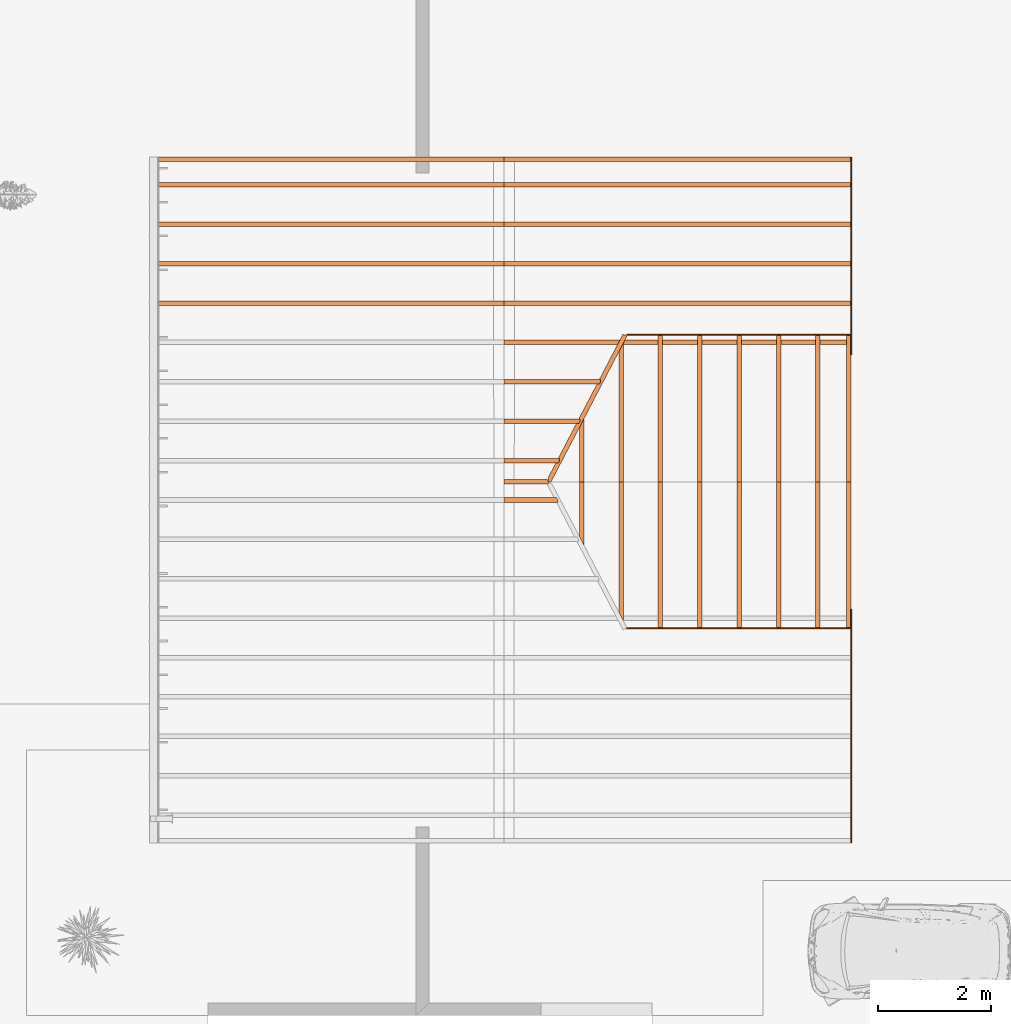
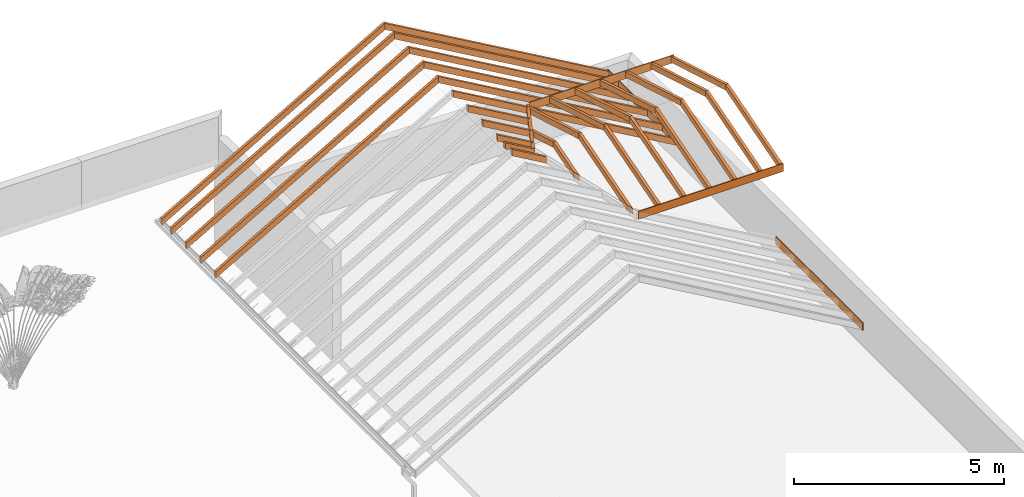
# One storey, part 4 of 7: 74 proxies.
"""IFC2X3 building model written with IfcOpenShell, lengths in metres."""

from ifc_helpers import new_model, entity, si_unit, converted_unit, derived_unit, money_unit, direction, frame, origin_with_axes, place, context, subcontext, project, spatial, faceted_brep, source, transform, mapped, type_object, element, save


model = new_model("IFC2X3")

# Units and contexts
model_context = context("Model", 3, precision=1e-05, world=origin_with_axes(), true_north=direction((0.0, 1.0)))
body_context = subcontext(model_context, "Body", "Model", "MODEL_VIEW")
ifc_project = project(units=[si_unit("LENGTHUNIT", "METRE"), si_unit("AREAUNIT", "SQUARE_METRE"), si_unit("VOLUMEUNIT", "CUBIC_METRE"), converted_unit("PLANEANGLEUNIT", "DEGREE", entity("IfcPlaneAngleMeasure", 0.0174532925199), si_unit("PLANEANGLEUNIT", "RADIAN"), dimensions=[0, 0, 0, 0, 0, 0, 0]), si_unit("SOLIDANGLEUNIT", "STERADIAN"), money_unit("CHF"), converted_unit("TIMEUNIT", "Year", entity("IfcTimeMeasure", 31556926.0), si_unit("TIMEUNIT", "SECOND"), dimensions=[0, 0, 1, 0, 0, 0, 0]), si_unit("MASSUNIT", "GRAM", prefix="KILO"), si_unit("THERMODYNAMICTEMPERATUREUNIT", "DEGREE_CELSIUS"), si_unit("LUMINOUSINTENSITYUNIT", "LUMEN"), si_unit("ENERGYUNIT", "JOULE", prefix="MEGA"), derived_unit("THERMALCONDUCTANCEUNIT", [(si_unit("POWERUNIT", "WATT"), 1), (si_unit("LENGTHUNIT", "METRE"), -1), (si_unit("THERMODYNAMICTEMPERATUREUNIT", "KELVIN"), -1)]), derived_unit("SPECIFICHEATCAPACITYUNIT", [(si_unit("ENERGYUNIT", "JOULE"), 1), (si_unit("MASSUNIT", "GRAM", prefix="KILO"), -1), (si_unit("THERMODYNAMICTEMPERATUREUNIT", "KELVIN"), -1)]), derived_unit("MASSDENSITYUNIT", [(si_unit("MASSUNIT", "GRAM", prefix="KILO"), 1), (si_unit("VOLUMEUNIT", "CUBIC_METRE"), -1)])], contexts=[model_context])

# Site, building, storey
site_placement = place(None, origin_with_axes())
site = spatial("IfcSite", under=ifc_project, at=site_placement, Name="Site", CompositionType="ELEMENT")
building_placement = place(site_placement, origin_with_axes())
building = spatial("IfcBuilding", under=site, at=building_placement, Name="Bâtiment", CompositionType="ELEMENT")
storey_placement = place(building_placement, frame((0.0, 0.0, 9.0), z_axis=(0.0, 0.0, 1.0), x_axis=(1.0, 0.0, 0.0)))
storey = spatial("IfcBuildingStorey", under=building, at=storey_placement, Name="TOITURE", CompositionType="ELEMENT", Elevation=9.0)

# Proxies
building_element_proxy_type_1 = type_object("IfcBuildingElementProxyType", Name="Chevron d'arêtier RM 20", PredefinedType="NOTDEFINED")
shared_shape_1 = source(origin_with_axes(), body_context, "Body", "Brep", [
    faceted_brep([(0.0, -0.0399999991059, 0.0), (-0.315732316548, -0.0399999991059, -0.0829397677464), (-0.315732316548, 0.0399999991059, -0.0829397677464), (0.0, 0.0399999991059, 0.0), (-0.315732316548, -0.0399999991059, 0.0824886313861), (2.55057960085, -0.0399999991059, 0.670012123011), (2.55057960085, -0.0399999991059, 0.835440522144), (-0.315732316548, 0.0399999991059, 0.0824886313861), (2.60650139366, 0.0399999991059, 0.850130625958), (2.60650139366, 0.0399999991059, 0.684702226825), (2.62734430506, 0.0, 0.690177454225), (2.62734430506, 0.0, 0.855605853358)], [[[0, 1, 2, 3]], [[4, 1, 0, 5, 6]], [[1, 4, 7, 2]], [[2, 7, 8, 9, 3]], [[3, 9, 10, 5, 0]], [[6, 5, 10, 11]], [[7, 4, 6, 11, 8]], [[9, 8, 11, 10]]]),
])
for number, where, z_axis, x_axis, name in (
    (1, (92.6776186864, 15.6453410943, -4.08429881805), (0.0, 0.0, 1.0), (-0.462101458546, -0.886827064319, 0.0), "MOB-1179"),
    (2, (92.6776186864, 15.6453410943, -4.08429881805), (0.0, 0.0, 1.0), (-0.462101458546, -0.886827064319, 0.0), "MOB-1179"),
):
    element("IfcBuildingElementProxy", number, at=place(storey_placement, frame(where, z_axis=z_axis, x_axis=x_axis)), inside=storey, type_object=building_element_proxy_type_1, Name=name, context=body_context, shape_type="MappedRepresentation", body=[
        mapped(shared_shape_1, transform((0.0, 0.0, 0.0))),
    ])
building_element_proxy_type_2 = type_object("IfcBuildingElementProxyType", Name="Chevron RM 20", PredefinedType="NOTDEFINED")
shared_shape_2 = source(origin_with_axes(), body_context, "Body", "Brep", [
    faceted_brep([(-0.279999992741, -0.04, 0.0230940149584), (5.88999992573, -0.04, 3.58534512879), (5.88999992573, 0.04, 3.58534512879), (-0.279999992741, 0.04, 0.0230940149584), (-0.279999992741, -0.04, -0.161658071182), (5.88999992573, -0.04, 3.40059304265), (5.88999992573, 0.04, 3.40059304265), (-0.279999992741, 0.04, -0.161658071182)], [[[0, 1, 2, 3]], [[4, 5, 1, 0]], [[2, 1, 5, 6]], [[3, 2, 6, 7]], [[3, 7, 4, 0]], [[7, 6, 5, 4]]]),
])
for number, where, z_axis, x_axis, name in (
    (3, (96.5635189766, 17.1953410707, -6.34843913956), (0.0, 0.0, 1.0), (-1.0, 0.0, 0.0), "MOB-1221"),
    (4, (96.5635189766, 18.5953410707, -6.34843913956), (0.0, 0.0, 1.0), (-1.0, 0.0, 0.0), "MOB-1223"),
    (5, (96.5635189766, 16.4953410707, -6.34843913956), (0.0, 0.0, 1.0), (-1.0, 0.0, 0.0), "MOB-1220"),
    (6, (96.5635189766, 17.8953410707, -6.34843913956), (0.0, 0.0, 1.0), (-1.0, 0.0, 0.0), "MOB-1222"),
    (7, (96.5635189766, 17.1953410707, -6.34843913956), (0.0, 0.0, 1.0), (-1.0, 0.0, 0.0), "MOB-1221"),
    (8, (96.5635189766, 18.5953410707, -6.34843913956), (0.0, 0.0, 1.0), (-1.0, 0.0, 0.0), "MOB-1223"),
    (9, (96.5635189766, 16.4953410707, -6.34843913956), (0.0, 0.0, 1.0), (-1.0, 0.0, 0.0), "MOB-1220"),
    (10, (96.5635189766, 17.8953410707, -6.34843913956), (0.0, 0.0, 1.0), (-1.0, 0.0, 0.0), "MOB-1222"),
):
    element("IfcBuildingElementProxy", number, at=place(storey_placement, frame(where, z_axis=z_axis, x_axis=x_axis)), inside=storey, type_object=building_element_proxy_type_2, Name=name, context=body_context, shape_type="MappedRepresentation", body=[
        mapped(shared_shape_2, transform((0.0, 0.0, 0.0))),
    ])
building_element_proxy_type_3 = type_object("IfcBuildingElementProxyType", Name="Panne 20", PredefinedType="NOTDEFINED")
shared_shape_3 = source(origin_with_axes(), body_context, "Body", "Brep", [
    faceted_brep([(0.0, -0.01, 0.23), (-3.51000007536, -0.01, 0.23), (-3.51000007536, -0.01, 0.0), (0.0, -0.01, 0.0), (0.0, 0.01, 0.23), (-3.51000007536, 0.01, 0.23), (-3.51000007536, 0.01, 0.0), (0.0, 0.01, 0.0)], [[[0, 1, 2, 3]], [[4, 5, 1, 0]], [[1, 5, 6, 2]], [[3, 2, 6, 7]], [[0, 3, 7, 4]], [[7, 6, 5, 4]]]),
])
for number, where, z_axis, x_axis, name in (
    (11, (96.8435189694, 15.5803410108, -6.5253451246), (0.0, 0.0, 1.0), (0.0, -1.0, 0.0), "MOB-1154"),
    (12, (96.8435189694, 15.5803410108, -6.5253451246), (0.0, 0.0, 1.0), (0.0, -1.0, 0.0), "MOB-1154"),
):
    element("IfcBuildingElementProxy", number, at=place(storey_placement, frame(where, z_axis=z_axis, x_axis=x_axis)), inside=storey, type_object=building_element_proxy_type_3, Name=name, context=body_context, shape_type="MappedRepresentation", body=[
        mapped(shared_shape_3, transform((0.0, 0.0, 0.0))),
    ])
shared_shape_4 = source(origin_with_axes(), body_context, "Body", "Brep", [
    faceted_brep([(-0.250452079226, -0.04, 0.0401535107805), (5.88999992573, -0.04, 3.58534512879), (5.88999992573, 0.04, 3.58534512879), (-0.250452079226, 0.04, 0.0401535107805), (-0.250452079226, -0.04, -0.14459857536), (5.88999992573, -0.04, 3.40059304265), (5.88999992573, 0.04, 3.40059304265), (-0.250452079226, 0.04, -0.14459857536)], [[[0, 1, 2, 3]], [[4, 5, 1, 0]], [[2, 1, 5, 6]], [[3, 2, 6, 7]], [[3, 7, 4, 0]], [[7, 6, 5, 4]]]),
])
for number, where, z_axis, x_axis, name in (
    (13, (84.7835191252, 18.5953410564, -6.34843913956), (0.0, 0.0, 1.0), (1.0, 0.0, 0.0), "MOB-1185"),
    (14, (84.7835191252, 18.5953410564, -6.34843913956), (0.0, 0.0, 1.0), (1.0, 0.0, 0.0), "MOB-1185"),
):
    element("IfcBuildingElementProxy", number, at=place(storey_placement, frame(where, z_axis=z_axis, x_axis=x_axis)), inside=storey, type_object=building_element_proxy_type_2, Name=name, context=body_context, shape_type="MappedRepresentation", body=[
        mapped(shared_shape_4, transform((0.0, 0.0, 0.0))),
    ])
shared_shape_5 = source(origin_with_axes(), body_context, "Body", "Brep", [
    faceted_brep([(-0.248639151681, -0.04, 0.0412002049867), (5.88999992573, -0.04, 3.58534512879), (5.88999992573, 0.04, 3.58534512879), (-0.248639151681, 0.04, 0.0412002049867), (-0.248639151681, -0.04, -0.143551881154), (5.88999992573, -0.04, 3.40059304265), (5.88999992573, 0.04, 3.40059304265), (-0.248639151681, 0.04, -0.143551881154)], [[[0, 1, 2, 3]], [[4, 5, 1, 0]], [[2, 1, 5, 6]], [[3, 2, 6, 7]], [[3, 7, 4, 0]], [[7, 6, 5, 4]]]),
])
for number, where, z_axis, x_axis, name in (
    (15, (84.7835191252, 17.1953410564, -6.34843913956), (0.0, 0.0, 1.0), (1.0, 0.0, 0.0), "MOB-1187"),
    (16, (84.7835191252, 17.1953410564, -6.34843913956), (0.0, 0.0, 1.0), (1.0, 0.0, 0.0), "MOB-1187"),
):
    element("IfcBuildingElementProxy", number, at=place(storey_placement, frame(where, z_axis=z_axis, x_axis=x_axis)), inside=storey, type_object=building_element_proxy_type_2, Name=name, context=body_context, shape_type="MappedRepresentation", body=[
        mapped(shared_shape_5, transform((0.0, 0.0, 0.0))),
    ])
building_element_proxy_type_4 = type_object("IfcBuildingElementProxyType", Name="Empannon RM 20", PredefinedType="NOTDEFINED")
shared_shape_6 = source(origin_with_axes(), body_context, "Body", "Brep", [
    faceted_brep([(0.0, 0.04, 0.0), (0.0, -0.04, 0.0), (0.0, -0.04, 0.184752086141), (0.0, 0.04, 0.184752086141), (0.769157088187, 0.04, -0.444073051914), (0.790000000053, 0.0, -0.45610671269), (0.790000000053, -0.04, -0.45610671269), (0.790000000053, -0.04, -0.27135462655), (0.790000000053, 0.0, -0.27135462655), (0.769157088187, 0.04, -0.259320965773)], [[[0, 1, 2, 3]], [[4, 5, 6, 1, 0]], [[1, 6, 7, 2]], [[3, 2, 7, 8, 9]], [[0, 3, 9, 4]], [[9, 8, 5, 4]], [[5, 8, 7, 6]]]),
])
for number, where, z_axis, x_axis, name in (
    (17, (90.6735190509, 13.3153410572, -2.94784609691), (0.0, 0.0, 1.0), (1.0, 0.0, 0.0), "MOB-1214"),
    (18, (90.6735190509, 13.3153410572, -2.94784609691), (0.0, 0.0, 1.0), (1.0, 0.0, 0.0), "MOB-1214"),
):
    element("IfcBuildingElementProxy", number, at=place(storey_placement, frame(where, z_axis=z_axis, x_axis=x_axis)), inside=storey, type_object=building_element_proxy_type_4, Name=name, context=body_context, shape_type="MappedRepresentation", body=[
        mapped(shared_shape_6, transform((0.0, 0.0, 0.0))),
    ])
shared_shape_7 = source(origin_with_axes(), body_context, "Body", "Brep", [
    faceted_brep([(-0.279999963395, -0.04, 0.0839320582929), (2.33000003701, -0.04, 0.857049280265), (2.33000003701, 0.04, 0.857049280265), (-0.279999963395, 0.04, 0.0839320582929), (-0.279999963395, -0.04, -0.0829397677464), (2.33000003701, -0.04, 0.690177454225), (2.33000003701, 0.04, 0.690177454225), (-0.279999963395, 0.04, -0.0829397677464)], [[[0, 1, 2, 3]], [[4, 5, 1, 0]], [[2, 1, 5, 6]], [[3, 2, 6, 7]], [[3, 7, 4, 0]], [[7, 6, 5, 4]]]),
])
for number, where, z_axis, x_axis, name in (
    (19, (95.5535190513, 10.9853410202, -4.08026701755), (0.0, 0.0, 1.0), (0.0, 1.0, 0.0), "MOB-1176"),
    (20, (94.1535190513, 15.6453410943, -4.08026701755), (0.0, 0.0, 1.0), (0.0, -1.0, 0.0), "MOB-1167"),
    (21, (95.5535190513, 15.6453410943, -4.08026701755), (0.0, 0.0, 1.0), (0.0, -1.0, 0.0), "MOB-1165"),
    (22, (93.4535190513, 10.9853410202, -4.08026701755), (0.0, 0.0, 1.0), (0.0, 1.0, 0.0), "MOB-1173"),
    (23, (96.2535190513, 15.6453410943, -4.08026701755), (0.0, 0.0, 1.0), (0.0, -1.0, 0.0), "MOB-1164"),
    (24, (94.1535190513, 10.9853410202, -4.08026701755), (0.0, 0.0, 1.0), (0.0, 1.0, 0.0), "MOB-1174"),
    (25, (93.4535190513, 15.6453410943, -4.08026701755), (0.0, 0.0, 1.0), (0.0, -1.0, 0.0), "MOB-1168"),
    (26, (94.8535190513, 10.9853410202, -4.08026701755), (0.0, 0.0, 1.0), (0.0, 1.0, 0.0), "MOB-1175"),
    (27, (96.2535190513, 10.9853410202, -4.08026701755), (0.0, 0.0, 1.0), (0.0, 1.0, 0.0), "MOB-1177"),
    (28, (94.8535190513, 15.6453410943, -4.08026701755), (0.0, 0.0, 1.0), (0.0, -1.0, 0.0), "MOB-1166"),
    (29, (95.5535190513, 10.9853410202, -4.08026701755), (0.0, 0.0, 1.0), (0.0, 1.0, 0.0), "MOB-1176"),
    (30, (94.1535190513, 15.6453410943, -4.08026701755), (0.0, 0.0, 1.0), (0.0, -1.0, 0.0), "MOB-1167"),
    (31, (95.5535190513, 15.6453410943, -4.08026701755), (0.0, 0.0, 1.0), (0.0, -1.0, 0.0), "MOB-1165"),
    (32, (93.4535190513, 10.9853410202, -4.08026701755), (0.0, 0.0, 1.0), (0.0, 1.0, 0.0), "MOB-1173"),
    (33, (96.2535190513, 15.6453410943, -4.08026701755), (0.0, 0.0, 1.0), (0.0, -1.0, 0.0), "MOB-1164"),
    (34, (94.1535190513, 10.9853410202, -4.08026701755), (0.0, 0.0, 1.0), (0.0, 1.0, 0.0), "MOB-1174"),
    (35, (93.4535190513, 15.6453410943, -4.08026701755), (0.0, 0.0, 1.0), (0.0, -1.0, 0.0), "MOB-1168"),
    (36, (94.8535190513, 10.9853410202, -4.08026701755), (0.0, 0.0, 1.0), (0.0, 1.0, 0.0), "MOB-1175"),
    (37, (96.2535190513, 10.9853410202, -4.08026701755), (0.0, 0.0, 1.0), (0.0, 1.0, 0.0), "MOB-1177"),
    (38, (94.8535190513, 15.6453410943, -4.08026701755), (0.0, 0.0, 1.0), (0.0, -1.0, 0.0), "MOB-1166"),
):
    element("IfcBuildingElementProxy", number, at=place(storey_placement, frame(where, z_axis=z_axis, x_axis=x_axis)), inside=storey, type_object=building_element_proxy_type_2, Name=name, context=body_context, shape_type="MappedRepresentation", body=[
        mapped(shared_shape_7, transform((0.0, 0.0, 0.0))),
    ])
shared_shape_8 = source(origin_with_axes(), body_context, "Body", "Brep", [
    faceted_brep([(0.0, 0.04, 0.0), (0.0, -0.04, 0.0), (0.0, -0.04, 0.166871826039), (0.0, 0.04, 0.166871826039), (1.1224830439, 0.04, -0.332494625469), (0.968953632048, -0.04, -0.287017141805), (0.968953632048, -0.04, -0.120145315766), (1.1224830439, 0.04, -0.165622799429)], [[[0, 1, 2, 3]], [[4, 5, 1, 0]], [[1, 5, 6, 2]], [[3, 2, 6, 7]], [[0, 3, 7, 4]], [[7, 6, 5, 4]]]),
])
for number, where, z_axis, x_axis, name in (
    (39, (92.0535190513, 13.3153410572, -3.39008956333), (0.0, 0.0, 1.0), (0.0, -1.0, 0.0), "MOB-1171"),
    (40, (92.0535190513, 13.3153410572, -3.39008956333), (0.0, 0.0, 1.0), (0.0, -1.0, 0.0), "MOB-1171"),
):
    element("IfcBuildingElementProxy", number, at=place(storey_placement, frame(where, z_axis=z_axis, x_axis=x_axis)), inside=storey, type_object=building_element_proxy_type_4, Name=name, context=body_context, shape_type="MappedRepresentation", body=[
        mapped(shared_shape_8, transform((0.0, 0.0, 0.0))),
    ])
shared_shape_9 = source(origin_with_axes(), body_context, "Body", "Brep", [
    faceted_brep([(0.0, 0.04, 0.0), (0.0, -0.04, 0.0), (0.0, -0.04, 0.166871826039), (0.0, 0.04, 0.166871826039), (2.31233598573, 0.04, -0.684945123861), (2.46586539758, -0.04, -0.730422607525), (2.46586539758, -0.04, -0.563550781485), (2.31233598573, 0.04, -0.518073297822)], [[[0, 1, 2, 3]], [[4, 5, 1, 0]], [[1, 5, 6, 2]], [[3, 2, 6, 7]], [[0, 3, 7, 4]], [[7, 6, 5, 4]]]),
])
for number, where, z_axis, x_axis, name in (
    (41, (92.7535190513, 13.3153410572, -3.39008956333), (0.0, 0.0, 1.0), (0.0, 1.0, 0.0), "MOB-1169"),
    (42, (92.7535190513, 13.3153410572, -3.39008956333), (0.0, 0.0, 1.0), (0.0, 1.0, 0.0), "MOB-1169"),
):
    element("IfcBuildingElementProxy", number, at=place(storey_placement, frame(where, z_axis=z_axis, x_axis=x_axis)), inside=storey, type_object=building_element_proxy_type_4, Name=name, context=body_context, shape_type="MappedRepresentation", body=[
        mapped(shared_shape_9, transform((0.0, 0.0, 0.0))),
    ])
shared_shape_10 = source(origin_with_axes(), body_context, "Body", "Brep", [
    faceted_brep([(0.0, 0.04, 0.0), (0.0, -0.04, 0.0), (0.0, -0.04, 0.166871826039), (0.0, 0.04, 0.166871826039), (0.968953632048, 0.04, -0.287017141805), (1.1224830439, -0.04, -0.332494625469), (1.1224830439, -0.04, -0.165622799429), (0.968953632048, 0.04, -0.120145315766)], [[[0, 1, 2, 3]], [[4, 5, 1, 0]], [[1, 5, 6, 2]], [[3, 2, 6, 7]], [[0, 3, 7, 4]], [[7, 6, 5, 4]]]),
])
for number, where, z_axis, x_axis, name in (
    (43, (92.0535190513, 13.3153410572, -3.39008956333), (0.0, 0.0, 1.0), (0.0, 1.0, 0.0), "MOB-1170"),
    (44, (92.0535190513, 13.3153410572, -3.39008956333), (0.0, 0.0, 1.0), (0.0, 1.0, 0.0), "MOB-1170"),
):
    element("IfcBuildingElementProxy", number, at=place(storey_placement, frame(where, z_axis=z_axis, x_axis=x_axis)), inside=storey, type_object=building_element_proxy_type_4, Name=name, context=body_context, shape_type="MappedRepresentation", body=[
        mapped(shared_shape_10, transform((0.0, 0.0, 0.0))),
    ])
shared_shape_11 = source(origin_with_axes(), body_context, "Body", "Brep", [
    faceted_brep([(0.0, 0.04, 0.0), (0.0, -0.04, 0.0), (0.0, -0.04, 0.166871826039), (0.0, 0.04, 0.166871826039), (2.46586539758, 0.04, -0.730422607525), (2.31233598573, -0.04, -0.684945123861), (2.31233598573, -0.04, -0.518073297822), (2.46586539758, 0.04, -0.563550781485)], [[[0, 1, 2, 3]], [[4, 5, 1, 0]], [[1, 5, 6, 2]], [[3, 2, 6, 7]], [[0, 3, 7, 4]], [[7, 6, 5, 4]]]),
])
for number, where, z_axis, x_axis, name in (
    (45, (92.7535190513, 13.3153410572, -3.39008956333), (0.0, 0.0, 1.0), (0.0, -1.0, 0.0), "MOB-1172"),
    (46, (92.7535190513, 13.3153410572, -3.39008956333), (0.0, 0.0, 1.0), (0.0, -1.0, 0.0), "MOB-1172"),
):
    element("IfcBuildingElementProxy", number, at=place(storey_placement, frame(where, z_axis=z_axis, x_axis=x_axis)), inside=storey, type_object=building_element_proxy_type_4, Name=name, context=body_context, shape_type="MappedRepresentation", body=[
        mapped(shared_shape_11, transform((0.0, 0.0, 0.0))),
    ])
shared_shape_12 = source(origin_with_axes(), body_context, "Body", "Brep", [
    faceted_brep([(-0.279999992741, -0.04, 0.0230940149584), (5.88999992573, -0.04, 3.58534512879), (5.88999992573, 0.04, 3.58534512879), (-0.279999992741, 0.04, 0.0230940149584), (-0.279999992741, -0.04, -0.161658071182), (5.88999992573, -0.04, 3.40059304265), (5.88999992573, 0.04, 3.40059304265), (-0.279999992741, 0.04, -0.161658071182)], [[[0, 1, 2, 3]], [[4, 5, 1, 0]], [[2, 1, 5, 6]], [[3, 2, 6, 7]], [[3, 7, 4, 0]], [[7, 6, 5, 4]]]),
])
for number, where, z_axis, x_axis, name in (
    (47, (96.5635189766, 15.7953410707, -6.34843913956), (0.0, 0.0, 1.0), (-1.0, 0.0, 0.0), "MOB-1219"),
    (48, (96.5635189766, 15.7953410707, -6.34843913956), (0.0, 0.0, 1.0), (-1.0, 0.0, 0.0), "MOB-1219"),
):
    element("IfcBuildingElementProxy", number, at=place(storey_placement, frame(where, z_axis=z_axis, x_axis=x_axis)), inside=storey, type_object=building_element_proxy_type_2, Name=name, context=body_context, shape_type="MappedRepresentation", body=[
        mapped(shared_shape_12, transform((0.0, 0.0, 0.0))),
    ])
shared_shape_13 = source(origin_with_axes(), body_context, "Body", "Brep", [
    faceted_brep([(0.0, -0.01, 0.23), (-4.15000003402, -0.01, 0.23), (-4.15000003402, -0.01, 0.0), (0.0, -0.01, 0.0), (0.0, 0.01, 0.23), (-4.15000003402, 0.01, 0.23), (-4.15000003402, 0.01, 0.0), (0.0, 0.01, 0.0)], [[[0, 1, 2, 3]], [[4, 5, 1, 0]], [[1, 5, 6, 2]], [[3, 2, 6, 7]], [[0, 3, 7, 4]], [[7, 6, 5, 4]]]),
])
for number, where, z_axis, x_axis, name in (
    (49, (96.8435189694, 6.90034105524, -6.5253451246), (0.0, 0.0, 1.0), (0.0, -1.0, 0.0), "MOB-1154"),
    (50, (96.8435189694, 6.90034105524, -6.5253451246), (0.0, 0.0, 1.0), (0.0, -1.0, 0.0), "MOB-1154"),
):
    element("IfcBuildingElementProxy", number, at=place(storey_placement, frame(where, z_axis=z_axis, x_axis=x_axis)), inside=storey, type_object=building_element_proxy_type_3, Name=name, context=body_context, shape_type="MappedRepresentation", body=[
        mapped(shared_shape_13, transform((0.0, 0.0, 0.0))),
    ])
shared_shape_14 = source(origin_with_axes(), body_context, "Body", "Brep", [
    faceted_brep([(0.0, 0.04, 0.0), (0.0, -0.04, 0.0), (0.0, -0.04, 0.184752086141), (0.0, 0.04, 0.184752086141), (0.988007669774, 0.04, -0.570426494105), (0.988007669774, 0.0, -0.570426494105), (0.967164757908, -0.04, -0.558392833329), (0.967164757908, -0.04, -0.373640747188), (0.988007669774, 0.0, -0.385674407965), (0.988007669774, 0.04, -0.385674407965)], [[[0, 1, 2, 3]], [[4, 5, 6, 1, 0]], [[1, 6, 7, 2]], [[3, 2, 7, 8, 9]], [[0, 3, 9, 4]], [[9, 8, 5, 4]], [[7, 6, 5, 8]]]),
])
for number, where, z_axis, x_axis, name in (
    (51, (90.6735190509, 13.6953410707, -2.94784609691), (0.0, 0.0, 1.0), (1.0, 0.0, 0.0), "MOB-1215"),
    (52, (90.6735190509, 13.6953410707, -2.94784609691), (0.0, 0.0, 1.0), (1.0, 0.0, 0.0), "MOB-1215"),
):
    element("IfcBuildingElementProxy", number, at=place(storey_placement, frame(where, z_axis=z_axis, x_axis=x_axis)), inside=storey, type_object=building_element_proxy_type_4, Name=name, context=body_context, shape_type="MappedRepresentation", body=[
        mapped(shared_shape_14, transform((0.0, 0.0, 0.0))),
    ])
shared_shape_15 = source(origin_with_axes(), body_context, "Body", "Brep", [
    faceted_brep([(0.0, 0.04, 0.0), (0.0, -0.04, 0.0), (0.0, -0.04, 0.184752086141), (0.0, 0.04, 0.184752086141), (0.935900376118, 0.04, -0.540342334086), (0.956743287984, 0.0, -0.552375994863), (0.956743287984, -0.04, -0.552375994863), (0.956743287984, -0.04, -0.367623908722), (0.956743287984, 0.0, -0.367623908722), (0.935900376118, 0.04, -0.355590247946)], [[[0, 1, 2, 3]], [[4, 5, 6, 1, 0]], [[1, 6, 7, 2]], [[3, 2, 7, 8, 9]], [[0, 3, 9, 4]], [[9, 8, 5, 4]], [[5, 8, 7, 6]]]),
])
for number, where, z_axis, x_axis, name in (
    (53, (90.6735190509, 12.9953410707, -2.94784609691), (0.0, 0.0, 1.0), (1.0, 0.0, 0.0), "MOB-1213"),
    (54, (90.6735190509, 12.9953410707, -2.94784609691), (0.0, 0.0, 1.0), (1.0, 0.0, 0.0), "MOB-1213"),
):
    element("IfcBuildingElementProxy", number, at=place(storey_placement, frame(where, z_axis=z_axis, x_axis=x_axis)), inside=storey, type_object=building_element_proxy_type_4, Name=name, context=body_context, shape_type="MappedRepresentation", body=[
        mapped(shared_shape_15, transform((0.0, 0.0, 0.0))),
    ])
shared_shape_16 = source(origin_with_axes(), body_context, "Body", "Brep", [
    faceted_brep([(0.0, 0.04, 0.0), (0.0, -0.04, 0.0), (0.0, -0.04, 0.184752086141), (0.0, 0.04, 0.184752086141), (1.71750958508, 0.04, -0.991604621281), (1.71750958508, 0.0, -0.991604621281), (1.69666667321, -0.04, -0.979570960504), (1.69666667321, -0.04, -0.794818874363), (1.71750958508, 0.0, -0.80685253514), (1.71750958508, 0.04, -0.80685253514)], [[[0, 1, 2, 3]], [[4, 5, 6, 1, 0]], [[1, 6, 7, 2]], [[3, 2, 7, 8, 9]], [[0, 3, 9, 4]], [[9, 8, 5, 4]], [[7, 6, 5, 8]]]),
])
for number, where, z_axis, x_axis, name in (
    (55, (90.6735190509, 15.0953410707, -2.94784609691), (0.0, 0.0, 1.0), (1.0, 0.0, 0.0), "MOB-1217"),
    (56, (90.6735190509, 15.0953410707, -2.94784609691), (0.0, 0.0, 1.0), (1.0, 0.0, 0.0), "MOB-1217"),
):
    element("IfcBuildingElementProxy", number, at=place(storey_placement, frame(where, z_axis=z_axis, x_axis=x_axis)), inside=storey, type_object=building_element_proxy_type_4, Name=name, context=body_context, shape_type="MappedRepresentation", body=[
        mapped(shared_shape_16, transform((0.0, 0.0, 0.0))),
    ])
shared_shape_17 = source(origin_with_axes(), body_context, "Body", "Brep", [
    faceted_brep([(0.0, 0.04, 0.0), (0.0, -0.04, 0.0), (0.0, -0.04, 0.184752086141), (0.0, 0.04, 0.184752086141), (1.35275862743, 0.04, -0.781015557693), (1.35275862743, 0.0, -0.781015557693), (1.33191571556, -0.04, -0.768981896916), (1.33191571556, -0.04, -0.584229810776), (1.35275862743, 0.0, -0.596263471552), (1.35275862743, 0.04, -0.596263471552)], [[[0, 1, 2, 3]], [[4, 5, 6, 1, 0]], [[1, 6, 7, 2]], [[3, 2, 7, 8, 9]], [[0, 3, 9, 4]], [[9, 8, 5, 4]], [[7, 6, 5, 8]]]),
])
for number, where, z_axis, x_axis, name in (
    (57, (90.6735190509, 14.3953410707, -2.94784609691), (0.0, 0.0, 1.0), (1.0, 0.0, 0.0), "MOB-1216"),
    (58, (90.6735190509, 14.3953410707, -2.94784609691), (0.0, 0.0, 1.0), (1.0, 0.0, 0.0), "MOB-1216"),
):
    element("IfcBuildingElementProxy", number, at=place(storey_placement, frame(where, z_axis=z_axis, x_axis=x_axis)), inside=storey, type_object=building_element_proxy_type_4, Name=name, context=body_context, shape_type="MappedRepresentation", body=[
        mapped(shared_shape_17, transform((0.0, 0.0, 0.0))),
    ])
shared_shape_18 = source(origin_with_axes(), body_context, "Body", "Brep", [
    faceted_brep([(-0.279999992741, -0.04, 0.0230940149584), (5.88999992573, -0.04, 3.58534512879), (5.88999992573, 0.04, 3.58534512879), (-0.279999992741, 0.04, 0.0230940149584), (-0.279999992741, -0.04, -0.161658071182), (5.88999992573, -0.04, 3.40059304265), (5.88999992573, 0.04, 3.40059304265), (-0.279999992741, 0.04, -0.161658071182)], [[[0, 1, 2, 3]], [[4, 5, 1, 0]], [[2, 1, 5, 6]], [[3, 2, 6, 7]], [[3, 7, 4, 0]], [[7, 6, 5, 4]]]),
])
for number, where, z_axis, x_axis, name in (
    (59, (96.5635189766, 19.0503410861, -6.34843913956), (0.0, 0.0, 1.0), (-1.0, 0.0, 0.0), "MOB-1224"),
    (60, (96.5635189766, 19.0503410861, -6.34843913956), (0.0, 0.0, 1.0), (-1.0, 0.0, 0.0), "MOB-1224"),
):
    element("IfcBuildingElementProxy", number, at=place(storey_placement, frame(where, z_axis=z_axis, x_axis=x_axis)), inside=storey, type_object=building_element_proxy_type_2, Name=name, context=body_context, shape_type="MappedRepresentation", body=[
        mapped(shared_shape_18, transform((0.0, 0.0, 0.0))),
    ])
shared_shape_19 = source(origin_with_axes(), body_context, "Body", "Brep", [
    faceted_brep([(-0.250227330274, -0.04, 0.0402832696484), (5.88999992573, -0.04, 3.58534512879), (5.88999992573, 0.04, 3.58534512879), (-0.250227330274, 0.04, 0.0402832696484), (-0.250227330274, -0.04, -0.144468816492), (5.88999992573, -0.04, 3.40059304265), (5.88999992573, 0.04, 3.40059304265), (-0.250227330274, 0.04, -0.144468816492)], [[[0, 1, 2, 3]], [[4, 5, 1, 0]], [[2, 1, 5, 6]], [[3, 2, 6, 7]], [[3, 7, 4, 0]], [[7, 6, 5, 4]]]),
])
for number, where, z_axis, x_axis, name in (
    (61, (84.7835191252, 16.4953410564, -6.34843913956), (0.0, 0.0, 1.0), (1.0, 0.0, 0.0), "MOB-1188"),
    (62, (84.7835191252, 16.4953410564, -6.34843913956), (0.0, 0.0, 1.0), (1.0, 0.0, 0.0), "MOB-1188"),
):
    element("IfcBuildingElementProxy", number, at=place(storey_placement, frame(where, z_axis=z_axis, x_axis=x_axis)), inside=storey, type_object=building_element_proxy_type_2, Name=name, context=body_context, shape_type="MappedRepresentation", body=[
        mapped(shared_shape_19, transform((0.0, 0.0, 0.0))),
    ])
shared_shape_20 = source(origin_with_axes(), body_context, "Body", "Brep", [
    faceted_brep([(-0.279999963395, -0.04, 0.0839320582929), (2.33000003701, -0.04, 0.857049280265), (2.33000003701, 0.04, 0.857049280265), (-0.279999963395, 0.04, 0.0839320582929), (-0.279999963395, -0.04, -0.0829397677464), (2.33000003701, -0.04, 0.690177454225), (2.33000003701, 0.04, 0.690177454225), (-0.279999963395, 0.04, -0.0829397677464)], [[[0, 1, 2, 3]], [[4, 5, 1, 0]], [[2, 1, 5, 6]], [[3, 2, 6, 7]], [[3, 7, 4, 0]], [[7, 6, 5, 4]]]),
])
for number, where, z_axis, x_axis, name in (
    (63, (96.8035190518, 15.6453410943, -4.08026701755), (0.0, 0.0, 1.0), (0.0, -1.0, 0.0), "MOB-1163"),
    (64, (96.8035190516, 10.9853410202, -4.08026701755), (0.0, 0.0, 1.0), (0.0, 1.0, 0.0), "MOB-1178"),
    (65, (96.8035190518, 15.6453410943, -4.08026701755), (0.0, 0.0, 1.0), (0.0, -1.0, 0.0), "MOB-1163"),
    (66, (96.8035190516, 10.9853410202, -4.08026701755), (0.0, 0.0, 1.0), (0.0, 1.0, 0.0), "MOB-1178"),
):
    element("IfcBuildingElementProxy", number, at=place(storey_placement, frame(where, z_axis=z_axis, x_axis=x_axis)), inside=storey, type_object=building_element_proxy_type_2, Name=name, context=body_context, shape_type="MappedRepresentation", body=[
        mapped(shared_shape_20, transform((0.0, 0.0, 0.0))),
    ])
shared_shape_21 = source(origin_with_axes(), body_context, "Body", "Brep", [
    faceted_brep([(-0.25000007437, -0.04, 0.0404144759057), (5.88999992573, -0.04, 3.58534512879), (5.88999992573, 0.04, 3.58534512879), (-0.25000007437, 0.04, 0.0404144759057), (-0.25000007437, -0.04, -0.144337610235), (5.88999992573, -0.04, 3.40059304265), (5.88999992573, 0.04, 3.40059304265), (-0.25000007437, 0.04, -0.144337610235)], [[[0, 1, 2, 3]], [[4, 5, 1, 0]], [[2, 1, 5, 6]], [[3, 2, 6, 7]], [[3, 7, 4, 0]], [[7, 6, 5, 4]]]),
])
for number, where, z_axis, x_axis, name in (
    (67, (84.7835191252, 19.0503410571, -6.34843913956), (0.0, 0.0, 1.0), (1.0, 0.0, 0.0), "MOB-1184"),
    (68, (84.7835191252, 19.0503410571, -6.34843913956), (0.0, 0.0, 1.0), (1.0, 0.0, 0.0), "MOB-1184"),
):
    element("IfcBuildingElementProxy", number, at=place(storey_placement, frame(where, z_axis=z_axis, x_axis=x_axis)), inside=storey, type_object=building_element_proxy_type_2, Name=name, context=body_context, shape_type="MappedRepresentation", body=[
        mapped(shared_shape_21, transform((0.0, 0.0, 0.0))),
    ])
shared_shape_22 = source(origin_with_axes(), body_context, "Body", "Brep", [
    faceted_brep([(-0.248609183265, -0.04, 0.0412175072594), (5.88999992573, -0.04, 3.58534512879), (5.88999992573, 0.04, 3.58534512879), (-0.248609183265, 0.04, 0.0412175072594), (-0.248609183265, -0.04, -0.143534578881), (5.88999992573, -0.04, 3.40059304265), (5.88999992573, 0.04, 3.40059304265), (-0.248609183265, 0.04, -0.143534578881)], [[[0, 1, 2, 3]], [[4, 5, 1, 0]], [[2, 1, 5, 6]], [[3, 2, 6, 7]], [[3, 7, 4, 0]], [[7, 6, 5, 4]]]),
])
for number, where, z_axis, x_axis, name in (
    (69, (84.7835191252, 17.8953410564, -6.34843913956), (0.0, 0.0, 1.0), (1.0, 0.0, 0.0), "MOB-1186"),
    (70, (84.7835191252, 17.8953410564, -6.34843913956), (0.0, 0.0, 1.0), (1.0, 0.0, 0.0), "MOB-1186"),
):
    element("IfcBuildingElementProxy", number, at=place(storey_placement, frame(where, z_axis=z_axis, x_axis=x_axis)), inside=storey, type_object=building_element_proxy_type_2, Name=name, context=body_context, shape_type="MappedRepresentation", body=[
        mapped(shared_shape_22, transform((0.0, 0.0, 0.0))),
    ])
shared_shape_23 = source(origin_with_axes(), body_context, "Body", "Brep", [
    faceted_brep([(0.0, -0.01, 0.23), (-3.98452683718, -0.01, 0.23), (-3.98452683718, -0.01, 0.0), (0.0, -0.01, 0.0), (0.0, 0.01, 0.23), (-3.98452683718, 0.01, 0.23), (-3.98452683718, 0.01, 0.0), (0.0, 0.01, 0.0)], [[[0, 1, 2, 3]], [[4, 5, 1, 0]], [[1, 5, 6, 2]], [[3, 2, 6, 7]], [[0, 3, 7, 4]], [[7, 6, 5, 4]]]),
])
for number, where, z_axis, x_axis, name in (
    (71, (92.8589921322, 10.7138251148, -4.19760002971), (0.0, 0.0, 1.0), (-1.0, 0.0, 0.0), "MOB-1154"),
    (72, (92.8589922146, 15.9353410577, -4.19760002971), (0.0, 0.0, 1.0), (-1.0, 0.0, 0.0), "MOB-1154"),
    (73, (92.8589921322, 10.7138251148, -4.19760002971), (0.0, 0.0, 1.0), (-1.0, 0.0, 0.0), "MOB-1154"),
    (74, (92.8589922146, 15.9353410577, -4.19760002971), (0.0, 0.0, 1.0), (-1.0, 0.0, 0.0), "MOB-1154"),
):
    element("IfcBuildingElementProxy", number, at=place(storey_placement, frame(where, z_axis=z_axis, x_axis=x_axis)), inside=storey, type_object=building_element_proxy_type_3, Name=name, context=body_context, shape_type="MappedRepresentation", body=[
        mapped(shared_shape_23, transform((0.0, 0.0, 0.0))),
    ])

save(model, "model.ifc")
